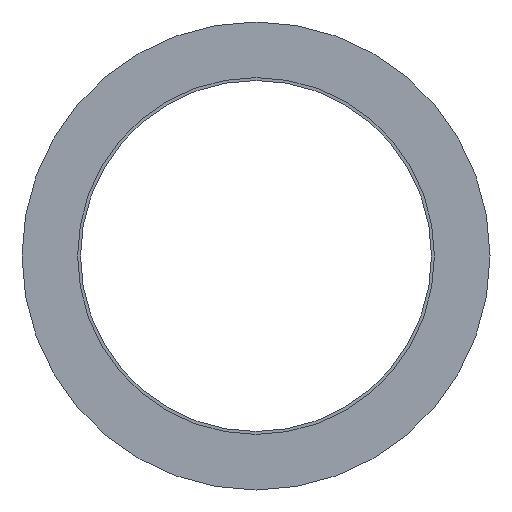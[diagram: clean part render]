
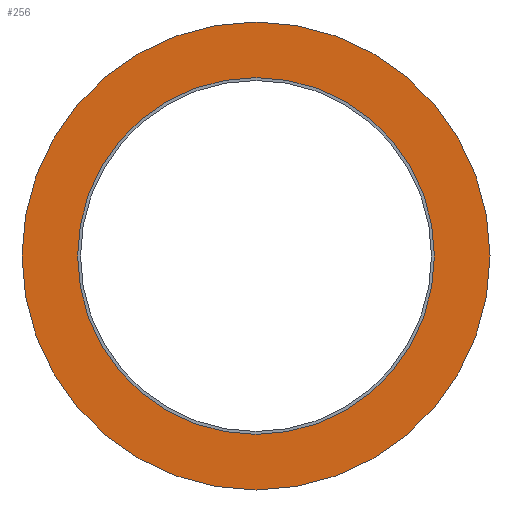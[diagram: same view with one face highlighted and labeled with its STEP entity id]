
A CAD part, left-side view. The second image highlights one B-rep face of the part: STEP entity #256.
In plain terms, the highlighted planar face has unit normal (-1, 0, 0).
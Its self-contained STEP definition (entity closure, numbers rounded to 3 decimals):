
#3 = CARTESIAN_POINT ( 'NONE',  ( -2.218, -0.037, 0. ) ) ;
#6 = AXIS2_PLACEMENT_3D ( 'NONE', #3, #203, #381 ) ;
#16 = CARTESIAN_POINT ( 'NONE',  ( -2.218, -0.037, 0. ) ) ;
#37 = DIRECTION ( 'NONE',  ( 1., 0., 0. ) ) ;
#38 = FACE_BOUND ( 'NONE', #157, .T. ) ;
#62 = VERTEX_POINT ( 'NONE', #292 ) ;
#63 = AXIS2_PLACEMENT_3D ( 'NONE', #382, #94, #330 ) ;
#64 = CARTESIAN_POINT ( 'NONE',  ( -2.218, -0.037, 0. ) ) ;
#69 = VERTEX_POINT ( 'NONE', #324 ) ;
#80 = AXIS2_PLACEMENT_3D ( 'NONE', #64, #37, #134 ) ;
#91 = FACE_OUTER_BOUND ( 'NONE', #281, .T. ) ;
#94 = DIRECTION ( 'NONE',  ( 1., 0., 0. ) ) ;
#130 = EDGE_CURVE ( 'NONE', #403, #240, #355, .T. ) ;
#134 = DIRECTION ( 'NONE',  ( 0., 0., -1. ) ) ;
#155 = DIRECTION ( 'NONE',  ( 0., 0., 1. ) ) ;
#156 = EDGE_CURVE ( 'NONE', #240, #403, #217, .T. ) ;
#157 = EDGE_LOOP ( 'NONE', ( #249, #328 ) ) ;
#184 = EDGE_CURVE ( 'NONE', #69, #62, #334, .T. ) ;
#187 = ORIENTED_EDGE ( 'NONE', *, *, #156, .F. ) ;
#203 = DIRECTION ( 'NONE',  ( 1., 0., 0. ) ) ;
#217 = CIRCLE ( 'NONE', #6, 6. ) ;
#223 = CARTESIAN_POINT ( 'NONE',  ( -2.218, -0.037, -6. ) ) ;
#240 = VERTEX_POINT ( 'NONE', #223 ) ;
#249 = ORIENTED_EDGE ( 'NONE', *, *, #184, .T. ) ;
#256 = ADVANCED_FACE ( 'NONE', ( #38, #91 ), #350, .T. ) ;
#267 = EDGE_CURVE ( 'NONE', #62, #69, #286, .T. ) ;
#277 = ORIENTED_EDGE ( 'NONE', *, *, #130, .F. ) ;
#281 = EDGE_LOOP ( 'NONE', ( #187, #277 ) ) ;
#286 = CIRCLE ( 'NONE', #356, 4.575 ) ;
#292 = CARTESIAN_POINT ( 'NONE',  ( -2.218, -0.037, 4.575 ) ) ;
#309 = CARTESIAN_POINT ( 'NONE',  ( -2.218, -0.037, 6. ) ) ;
#312 = AXIS2_PLACEMENT_3D ( 'NONE', #339, #320, #155 ) ;
#320 = DIRECTION ( 'NONE',  ( -1., 0., 0. ) ) ;
#324 = CARTESIAN_POINT ( 'NONE',  ( -2.218, -0.037, -4.575 ) ) ;
#328 = ORIENTED_EDGE ( 'NONE', *, *, #267, .T. ) ;
#330 = DIRECTION ( 'NONE',  ( 0., 0., -1. ) ) ;
#334 = CIRCLE ( 'NONE', #80, 4.575 ) ;
#339 = CARTESIAN_POINT ( 'NONE',  ( -2.218, -0.037, 0. ) ) ;
#350 = PLANE ( 'NONE',  #312 ) ;
#355 = CIRCLE ( 'NONE', #63, 6. ) ;
#356 = AXIS2_PLACEMENT_3D ( 'NONE', #16, #366, #373 ) ;
#366 = DIRECTION ( 'NONE',  ( 1., 0., 0. ) ) ;
#373 = DIRECTION ( 'NONE',  ( 0., 0., -1. ) ) ;
#381 = DIRECTION ( 'NONE',  ( 0., 0., -1. ) ) ;
#382 = CARTESIAN_POINT ( 'NONE',  ( -2.218, -0.037, 0. ) ) ;
#403 = VERTEX_POINT ( 'NONE', #309 ) ;
